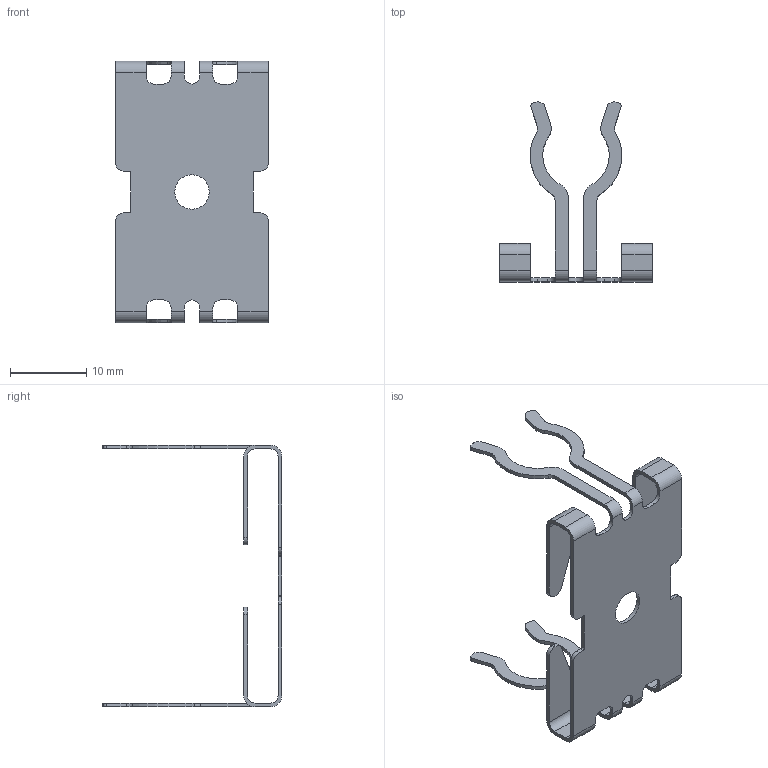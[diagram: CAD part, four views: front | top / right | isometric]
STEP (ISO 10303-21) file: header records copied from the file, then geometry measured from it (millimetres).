
FILE_DESCRIPTION( ( 'STEP AP203' ), ' ' );
FILE_NAME( 'p:/temp/worker_834/5372_844/app_46_02017051809512493662770192d056f_000000_00_00_000000/format_3/E89208.stp', '2017-05-18T07:51:26', ( '' ), ( '' ), ' ', 'PARTsolutions', ' ' );
FILE_SCHEMA( ( 'CONFIG_CONTROL_DESIGN' ) );
Length unit declared in the file: millimetre
Products named in the file (1): _E89208
Bounding box: 20 x 23.55 x 34.3 mm (x, y, z)
Volume: 497.6 mm3; surface area: 2224.6 mm2
Topology: 1 solids, 1 shells, 159 faces, 471 edges, 314 vertices
Faces by surface type: cylinder 87, plane 72
Full cylindrical faces by diameter (mm): 4.5 x1
Entity records: 5422 total; most frequent: DIRECTION 964, CARTESIAN_POINT 944, ORIENTED_EDGE 940, EDGE_CURVE 470, AXIS2_PLACEMENT_3D 334, VERTEX_POINT 314, LINE 296, VECTOR 296
